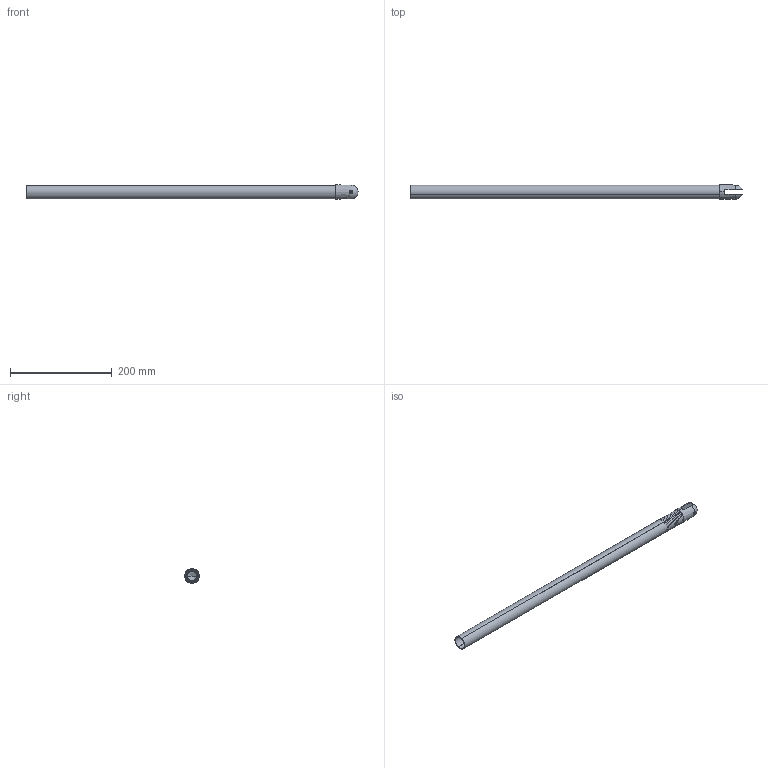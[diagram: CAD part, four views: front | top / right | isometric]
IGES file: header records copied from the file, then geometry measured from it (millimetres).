
Start section: SolidWorks IGES file using analytic representation for surfaces
Global section: file name: \\SERVER3\Design\_New Design Drive Folder List\_Design Vault\AAI\Modular Round Tube Connectors\Solidworks Models\Demonstrations\25. Assemblies\Modular Connectors\1. End Connectors\End Connectors Solid Models\Female Clevis Connector.IGS; native system: SolidWorks 2013; preprocessor: SolidWorks 2013; author: tbraun; date: 130819.103651; units: inch
Bounding box: 653.96 x 28.57 x 28.57 mm (x, y, z)
Surface area: 115903.7 mm2 (no closed solid volume)
Topology: 0 solids, 0 shells, 244 faces, 3236 edges, 3234 vertices
Faces by surface type: bspline 127, revolution 117
